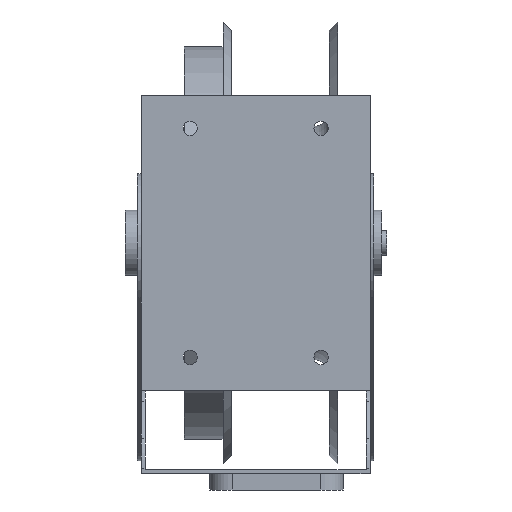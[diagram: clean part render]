
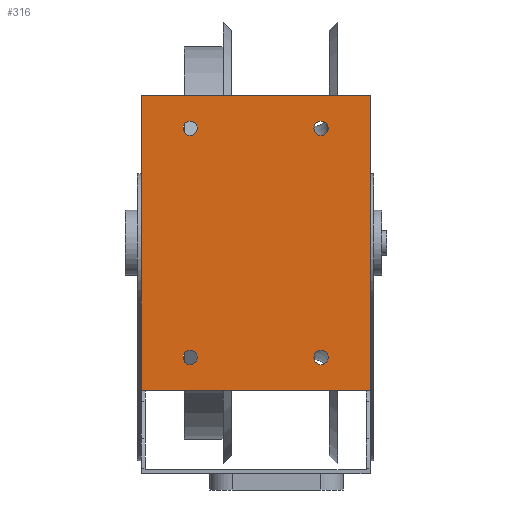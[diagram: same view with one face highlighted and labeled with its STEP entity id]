
A CAD part, left-side view. The second image highlights one B-rep face of the part: STEP entity #316.
In plain terms, the highlighted planar face has unit normal (-1, 0, 0).
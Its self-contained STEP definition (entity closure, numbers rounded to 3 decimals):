
#316 = ADVANCED_FACE( '', ( #698, #699, #700, #701, #702 ), #703, .T. );
#698 = FACE_BOUND( '', #1121, .T. );
#699 = FACE_BOUND( '', #1122, .T. );
#700 = FACE_BOUND( '', #1123, .T. );
#701 = FACE_BOUND( '', #1124, .T. );
#702 = FACE_OUTER_BOUND( '', #1125, .T. );
#703 = PLANE( '', #1126 );
#1121 = EDGE_LOOP( '', ( #1957 ) );
#1122 = EDGE_LOOP( '', ( #1958 ) );
#1123 = EDGE_LOOP( '', ( #1959 ) );
#1124 = EDGE_LOOP( '', ( #1960 ) );
#1125 = EDGE_LOOP( '', ( #1961, #1962, #1963, #1964 ) );
#1126 = AXIS2_PLACEMENT_3D( '', #1965, #1966, #1967 );
#1957 = ORIENTED_EDGE( '', *, *, #2552, .F. );
#1958 = ORIENTED_EDGE( '', *, *, #2395, .F. );
#1959 = ORIENTED_EDGE( '', *, *, #2553, .F. );
#1960 = ORIENTED_EDGE( '', *, *, #2292, .F. );
#1961 = ORIENTED_EDGE( '', *, *, #2447, .F. );
#1962 = ORIENTED_EDGE( '', *, *, #2554, .F. );
#1963 = ORIENTED_EDGE( '', *, *, #2546, .T. );
#1964 = ORIENTED_EDGE( '', *, *, #2555, .T. );
#1965 = CARTESIAN_POINT( '', ( -222.25, -101.41, 114.3 ) );
#1966 = DIRECTION( '', ( -1., 0., 0. ) );
#1967 = DIRECTION( '', ( 0., -1., 0. ) );
#2292 = EDGE_CURVE( '', #2713, #2713, #2714, .T. );
#2395 = EDGE_CURVE( '', #2881, #2881, #2882, .T. );
#2447 = EDGE_CURVE( '', #2957, #2959, #2960, .T. );
#2546 = EDGE_CURVE( '', #3091, #3089, #3092, .T. );
#2552 = EDGE_CURVE( '', #3099, #3099, #3100, .T. );
#2553 = EDGE_CURVE( '', #3101, #3101, #3102, .T. );
#2554 = EDGE_CURVE( '', #3091, #2957, #3103, .T. );
#2555 = EDGE_CURVE( '', #3089, #2959, #3104, .T. );
#2713 = VERTEX_POINT( '', #3296 );
#2714 = CIRCLE( '', #3297, 5.556 );
#2881 = VERTEX_POINT( '', #3516 );
#2882 = CIRCLE( '', #3517, 5.556 );
#2957 = VERTEX_POINT( '', #3615 );
#2959 = VERTEX_POINT( '', #3618 );
#2960 = LINE( '', #3619, #3620 );
#3089 = VERTEX_POINT( '', #3795 );
#3091 = VERTEX_POINT( '', #3798 );
#3092 = LINE( '', #3799, #3800 );
#3099 = VERTEX_POINT( '', #3808 );
#3100 = CIRCLE( '', #3809, 5.556 );
#3101 = VERTEX_POINT( '', #3810 );
#3102 = CIRCLE( '', #3811, 5.556 );
#3103 = LINE( '', #3812, #3813 );
#3104 = LINE( '', #3814, #3815 );
#3296 = CARTESIAN_POINT( '', ( -222.25, 43.707, -88.9 ) );
#3297 = AXIS2_PLACEMENT_3D( '', #3956, #3957, #3958 );
#3516 = CARTESIAN_POINT( '', ( -222.25, -57.893, 88.9 ) );
#3517 = AXIS2_PLACEMENT_3D( '', #4101, #4102, #4103 );
#3615 = CARTESIAN_POINT( '', ( -222.25, -101.41, -114.3 ) );
#3618 = CARTESIAN_POINT( '', ( -222.25, 76.111, -114.3 ) );
#3619 = CARTESIAN_POINT( '', ( -222.25, -101.41, -114.3 ) );
#3620 = VECTOR( '', #4167, 1000. );
#3795 = CARTESIAN_POINT( '', ( -222.25, 76.111, 114.3 ) );
#3798 = CARTESIAN_POINT( '', ( -222.25, -101.41, 114.3 ) );
#3799 = CARTESIAN_POINT( '', ( -222.25, -101.41, 114.3 ) );
#3800 = VECTOR( '', #4263, 1000. );
#3808 = CARTESIAN_POINT( '', ( -222.25, -57.893, -88.9 ) );
#3809 = AXIS2_PLACEMENT_3D( '', #4268, #4269, #4270 );
#3810 = CARTESIAN_POINT( '', ( -222.25, 43.707, 88.9 ) );
#3811 = AXIS2_PLACEMENT_3D( '', #4271, #4272, #4273 );
#3812 = CARTESIAN_POINT( '', ( -222.25, -101.41, 114.3 ) );
#3813 = VECTOR( '', #4274, 1000. );
#3814 = CARTESIAN_POINT( '', ( -222.25, 76.111, 114.3 ) );
#3815 = VECTOR( '', #4275, 1000. );
#3956 = CARTESIAN_POINT( '', ( -222.25, 38.151, -88.9 ) );
#3957 = DIRECTION( '', ( -1., 0., 0. ) );
#3958 = DIRECTION( '', ( 0., 1., 0. ) );
#4101 = CARTESIAN_POINT( '', ( -222.25, -63.449, 88.9 ) );
#4102 = DIRECTION( '', ( -1., 0., 0. ) );
#4103 = DIRECTION( '', ( 0., 1., 0. ) );
#4167 = DIRECTION( '', ( 0., 1., 0. ) );
#4263 = DIRECTION( '', ( 0., 1., 0. ) );
#4268 = CARTESIAN_POINT( '', ( -222.25, -63.449, -88.9 ) );
#4269 = DIRECTION( '', ( -1., 0., 0. ) );
#4270 = DIRECTION( '', ( 0., 1., 0. ) );
#4271 = CARTESIAN_POINT( '', ( -222.25, 38.151, 88.9 ) );
#4272 = DIRECTION( '', ( -1., 0., 0. ) );
#4273 = DIRECTION( '', ( 0., 1., 0. ) );
#4274 = DIRECTION( '', ( 0., 0., -1. ) );
#4275 = DIRECTION( '', ( 0., 0., -1. ) );
